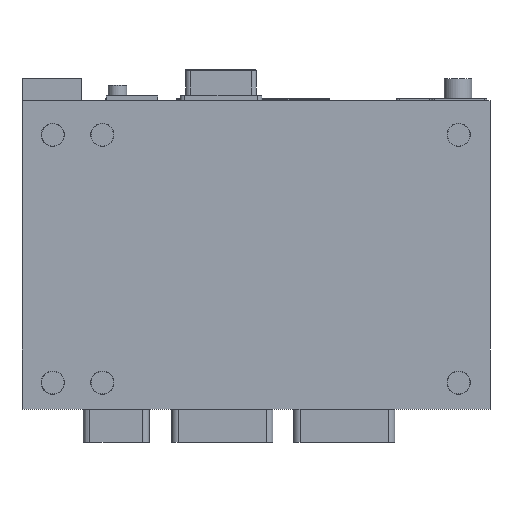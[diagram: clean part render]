
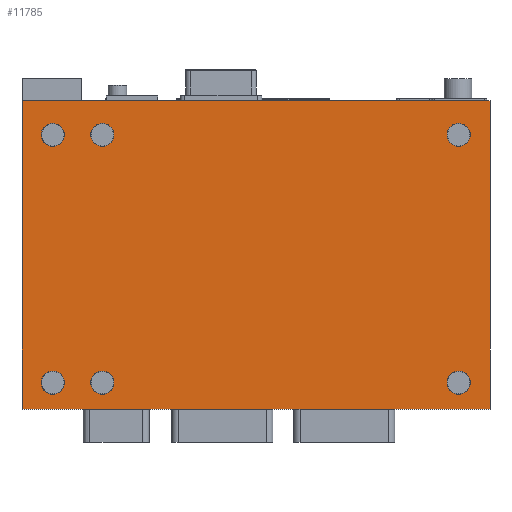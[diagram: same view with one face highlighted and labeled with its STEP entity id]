
A CAD part, front view. The second image highlights one B-rep face of the part: STEP entity #11785.
In plain terms, the highlighted planar face has unit normal (0, -1, 0).
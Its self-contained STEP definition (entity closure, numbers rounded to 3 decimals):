
#34 = AXIS2_PLACEMENT_3D ( 'NONE', #2695, #9468, #3672 ) ;
#146 = DIRECTION ( 'NONE',  ( 0., 0., 1. ) ) ;
#155 = CARTESIAN_POINT ( 'NONE',  ( 73., 5., -245.5 ) ) ;
#192 = DIRECTION ( 'NONE',  ( 0., -1., 0. ) ) ;
#233 = ORIENTED_EDGE ( 'NONE', *, *, #3648, .F. ) ;
#249 = VERTEX_POINT ( 'NONE', #8345 ) ;
#421 = CARTESIAN_POINT ( 'NONE',  ( 396.5, 5., -31. ) ) ;
#442 = VERTEX_POINT ( 'NONE', #5051 ) ;
#443 = LINE ( 'NONE', #6369, #2711 ) ;
#473 = EDGE_CURVE ( 'NONE', #9818, #442, #443, .T. ) ;
#642 = VERTEX_POINT ( 'NONE', #4894 ) ;
#671 = ORIENTED_EDGE ( 'NONE', *, *, #11718, .F. ) ;
#881 = DIRECTION ( 'NONE',  ( 0., 0., 1. ) ) ;
#892 = ORIENTED_EDGE ( 'NONE', *, *, #9554, .F. ) ;
#978 = AXIS2_PLACEMENT_3D ( 'NONE', #421, #7200, #1389 ) ;
#1041 = DIRECTION ( 'NONE',  ( 1., 0., 0. ) ) ;
#1056 = DIRECTION ( 'NONE',  ( 0., -1., 0. ) ) ;
#1070 = CARTESIAN_POINT ( 'NONE',  ( 0., 5., -280. ) ) ;
#1132 = ORIENTED_EDGE ( 'NONE', *, *, #3046, .F. ) ;
#1202 = EDGE_CURVE ( 'NONE', #7677, #7695, #9372, .T. ) ;
#1282 = CARTESIAN_POINT ( 'NONE',  ( 28., 5., -20.5 ) ) ;
#1325 = LINE ( 'NONE', #8549, #3605 ) ;
#1352 = EDGE_CURVE ( 'NONE', #7695, #7677, #1483, .T. ) ;
#1389 = DIRECTION ( 'NONE',  ( 0., 0., 1. ) ) ;
#1451 = CARTESIAN_POINT ( 'NONE',  ( 28., 5., -266.5 ) ) ;
#1457 = EDGE_LOOP ( 'NONE', ( #8455, #4611 ) ) ;
#1471 = FACE_OUTER_BOUND ( 'NONE', #5993, .T. ) ;
#1483 = CIRCLE ( 'NONE', #3769, 10.5 ) ;
#1583 = CARTESIAN_POINT ( 'NONE',  ( 73., 5., -256. ) ) ;
#1784 = AXIS2_PLACEMENT_3D ( 'NONE', #6004, #192, #6974 ) ;
#1826 = DIRECTION ( 'NONE',  ( 0., -1., 0. ) ) ;
#1918 = DIRECTION ( 'NONE',  ( 0., -1., 0. ) ) ;
#2027 = VERTEX_POINT ( 'NONE', #155 ) ;
#2198 = DIRECTION ( 'NONE',  ( 0., 0., 1. ) ) ;
#2494 = EDGE_CURVE ( 'NONE', #642, #9963, #5536, .T. ) ;
#2554 = DIRECTION ( 'NONE',  ( 0., 0., 1. ) ) ;
#2595 = EDGE_LOOP ( 'NONE', ( #4481, #8242 ) ) ;
#2695 = CARTESIAN_POINT ( 'NONE',  ( 396.5, 5., -256. ) ) ;
#2711 = VECTOR ( 'NONE', #1041, 1000. ) ;
#2981 = EDGE_LOOP ( 'NONE', ( #10759, #5641 ) ) ;
#3046 = EDGE_CURVE ( 'NONE', #442, #11202, #12003, .T. ) ;
#3229 = CARTESIAN_POINT ( 'NONE',  ( 28., 5., -256. ) ) ;
#3242 = EDGE_CURVE ( 'NONE', #2027, #3461, #12450, .T. ) ;
#3339 = CARTESIAN_POINT ( 'NONE',  ( 73., 5., -266.5 ) ) ;
#3408 = ORIENTED_EDGE ( 'NONE', *, *, #6508, .F. ) ;
#3432 = CARTESIAN_POINT ( 'NONE',  ( 73., 5., -20.5 ) ) ;
#3461 = VERTEX_POINT ( 'NONE', #3339 ) ;
#3502 = CARTESIAN_POINT ( 'NONE',  ( 396.5, 5., -245.5 ) ) ;
#3553 = VERTEX_POINT ( 'NONE', #3502 ) ;
#3605 = VECTOR ( 'NONE', #4682, 1000. ) ;
#3648 = EDGE_CURVE ( 'NONE', #3553, #12511, #7619, .T. ) ;
#3672 = DIRECTION ( 'NONE',  ( 0., 0., 1. ) ) ;
#3686 = CARTESIAN_POINT ( 'NONE',  ( 396.5, 5., -256. ) ) ;
#3769 = AXIS2_PLACEMENT_3D ( 'NONE', #9826, #1826, #11802 ) ;
#4044 = FACE_BOUND ( 'NONE', #1457, .T. ) ;
#4201 = VERTEX_POINT ( 'NONE', #10620 ) ;
#4210 = DIRECTION ( 'NONE',  ( 0., 0., 1. ) ) ;
#4428 = AXIS2_PLACEMENT_3D ( 'NONE', #6841, #1056, #7831 ) ;
#4481 = ORIENTED_EDGE ( 'NONE', *, *, #7784, .F. ) ;
#4611 = ORIENTED_EDGE ( 'NONE', *, *, #1352, .F. ) ;
#4656 = DIRECTION ( 'NONE',  ( 0., 0., 1. ) ) ;
#4682 = DIRECTION ( 'NONE',  ( -1., 0., 0. ) ) ;
#4730 = CARTESIAN_POINT ( 'NONE',  ( 0., 5., 0. ) ) ;
#4809 = EDGE_LOOP ( 'NONE', ( #7518, #892 ) ) ;
#4838 = DIRECTION ( 'NONE',  ( 0., 0., 1. ) ) ;
#4894 = CARTESIAN_POINT ( 'NONE',  ( 396.5, 5., -20.5 ) ) ;
#4963 = ORIENTED_EDGE ( 'NONE', *, *, #5828, .F. ) ;
#5051 = CARTESIAN_POINT ( 'NONE',  ( 425., 5., 0. ) ) ;
#5073 = AXIS2_PLACEMENT_3D ( 'NONE', #3686, #10436, #4656 ) ;
#5128 = CARTESIAN_POINT ( 'NONE',  ( 0., 5., -280. ) ) ;
#5221 = VERTEX_POINT ( 'NONE', #1451 ) ;
#5338 = DIRECTION ( 'NONE',  ( 0., -1., 0. ) ) ;
#5536 = CIRCLE ( 'NONE', #7106, 10.5 ) ;
#5553 = CARTESIAN_POINT ( 'NONE',  ( 425., 5., -280. ) ) ;
#5613 = EDGE_CURVE ( 'NONE', #11404, #249, #8115, .T. ) ;
#5641 = ORIENTED_EDGE ( 'NONE', *, *, #3242, .F. ) ;
#5693 = DIRECTION ( 'NONE',  ( 0., -1., 0. ) ) ;
#5795 = CARTESIAN_POINT ( 'NONE',  ( 396.5, 5., -41.5 ) ) ;
#5813 = CARTESIAN_POINT ( 'NONE',  ( 28., 5., -31. ) ) ;
#5828 = EDGE_CURVE ( 'NONE', #249, #11404, #10806, .T. ) ;
#5947 = DIRECTION ( 'NONE',  ( 0., -1., 0. ) ) ;
#5993 = EDGE_LOOP ( 'NONE', ( #3408, #10874, #1132, #8748 ) ) ;
#6004 = CARTESIAN_POINT ( 'NONE',  ( 73., 5., -31. ) ) ;
#6369 = CARTESIAN_POINT ( 'NONE',  ( 0., 5., 0. ) ) ;
#6508 = EDGE_CURVE ( 'NONE', #7570, #9818, #9439, .T. ) ;
#6518 = DIRECTION ( 'NONE',  ( 0., 0., -1. ) ) ;
#6601 = AXIS2_PLACEMENT_3D ( 'NONE', #5813, #1918, #4838 ) ;
#6618 = FACE_BOUND ( 'NONE', #10669, .T. ) ;
#6645 = PLANE ( 'NONE',  #10894 ) ;
#6681 = DIRECTION ( 'NONE',  ( 0., 1., 0. ) ) ;
#6841 = CARTESIAN_POINT ( 'NONE',  ( 73., 5., -256. ) ) ;
#6917 = FACE_BOUND ( 'NONE', #2981, .T. ) ;
#6974 = DIRECTION ( 'NONE',  ( 0., 0., 1. ) ) ;
#7044 = AXIS2_PLACEMENT_3D ( 'NONE', #11105, #5338, #12077 ) ;
#7106 = AXIS2_PLACEMENT_3D ( 'NONE', #11461, #5693, #12424 ) ;
#7200 = DIRECTION ( 'NONE',  ( 0., -1., 0. ) ) ;
#7518 = ORIENTED_EDGE ( 'NONE', *, *, #11156, .F. ) ;
#7562 = CARTESIAN_POINT ( 'NONE',  ( 0., 5., 0. ) ) ;
#7570 = VERTEX_POINT ( 'NONE', #1070 ) ;
#7619 = CIRCLE ( 'NONE', #34, 10.5 ) ;
#7677 = VERTEX_POINT ( 'NONE', #9907 ) ;
#7695 = VERTEX_POINT ( 'NONE', #1282 ) ;
#7784 = EDGE_CURVE ( 'NONE', #9963, #642, #9118, .T. ) ;
#7831 = DIRECTION ( 'NONE',  ( 0., 0., 1. ) ) ;
#8115 = CIRCLE ( 'NONE', #1784, 10.5 ) ;
#8146 = CIRCLE ( 'NONE', #11501, 10.5 ) ;
#8242 = ORIENTED_EDGE ( 'NONE', *, *, #2494, .F. ) ;
#8345 = CARTESIAN_POINT ( 'NONE',  ( 73., 5., -41.5 ) ) ;
#8360 = DIRECTION ( 'NONE',  ( 0., -1., 0. ) ) ;
#8455 = ORIENTED_EDGE ( 'NONE', *, *, #1202, .F. ) ;
#8511 = EDGE_CURVE ( 'NONE', #3461, #2027, #8146, .T. ) ;
#8549 = CARTESIAN_POINT ( 'NONE',  ( 0., 5., -280. ) ) ;
#8748 = ORIENTED_EDGE ( 'NONE', *, *, #473, .F. ) ;
#8935 = CARTESIAN_POINT ( 'NONE',  ( 425., 5., -280. ) ) ;
#8959 = CARTESIAN_POINT ( 'NONE',  ( 396.5, 5., -266.5 ) ) ;
#8984 = CIRCLE ( 'NONE', #9075, 10.5 ) ;
#9044 = AXIS2_PLACEMENT_3D ( 'NONE', #3229, #9992, #4210 ) ;
#9075 = AXIS2_PLACEMENT_3D ( 'NONE', #11741, #5947, #146 ) ;
#9118 = CIRCLE ( 'NONE', #978, 10.5 ) ;
#9207 = FACE_BOUND ( 'NONE', #2595, .T. ) ;
#9236 = ORIENTED_EDGE ( 'NONE', *, *, #5613, .F. ) ;
#9372 = CIRCLE ( 'NONE', #6601, 10.5 ) ;
#9439 = LINE ( 'NONE', #5128, #11986 ) ;
#9468 = DIRECTION ( 'NONE',  ( 0., -1., 0. ) ) ;
#9503 = FACE_BOUND ( 'NONE', #9865, .T. ) ;
#9554 = EDGE_CURVE ( 'NONE', #4201, #5221, #12163, .T. ) ;
#9789 = CIRCLE ( 'NONE', #5073, 10.5 ) ;
#9818 = VERTEX_POINT ( 'NONE', #7562 ) ;
#9826 = CARTESIAN_POINT ( 'NONE',  ( 28., 5., -31. ) ) ;
#9865 = EDGE_LOOP ( 'NONE', ( #671, #233 ) ) ;
#9907 = CARTESIAN_POINT ( 'NONE',  ( 28., 5., -41.5 ) ) ;
#9963 = VERTEX_POINT ( 'NONE', #5795 ) ;
#9992 = DIRECTION ( 'NONE',  ( 0., -1., 0. ) ) ;
#10436 = DIRECTION ( 'NONE',  ( 0., -1., 0. ) ) ;
#10620 = CARTESIAN_POINT ( 'NONE',  ( 28., 5., -245.5 ) ) ;
#10669 = EDGE_LOOP ( 'NONE', ( #4963, #9236 ) ) ;
#10759 = ORIENTED_EDGE ( 'NONE', *, *, #8511, .F. ) ;
#10806 = CIRCLE ( 'NONE', #7044, 10.5 ) ;
#10874 = ORIENTED_EDGE ( 'NONE', *, *, #11577, .F. ) ;
#10894 = AXIS2_PLACEMENT_3D ( 'NONE', #4730, #6681, #881 ) ;
#11105 = CARTESIAN_POINT ( 'NONE',  ( 73., 5., -31. ) ) ;
#11156 = EDGE_CURVE ( 'NONE', #5221, #4201, #8984, .T. ) ;
#11202 = VERTEX_POINT ( 'NONE', #8935 ) ;
#11404 = VERTEX_POINT ( 'NONE', #3432 ) ;
#11461 = CARTESIAN_POINT ( 'NONE',  ( 396.5, 5., -31. ) ) ;
#11501 = AXIS2_PLACEMENT_3D ( 'NONE', #1583, #8360, #2554 ) ;
#11577 = EDGE_CURVE ( 'NONE', #11202, #7570, #1325, .T. ) ;
#11694 = VECTOR ( 'NONE', #6518, 1000. ) ;
#11718 = EDGE_CURVE ( 'NONE', #12511, #3553, #9789, .T. ) ;
#11740 = FACE_BOUND ( 'NONE', #4809, .T. ) ;
#11741 = CARTESIAN_POINT ( 'NONE',  ( 28., 5., -256. ) ) ;
#11785 = ADVANCED_FACE ( 'NONE', ( #9503, #9207, #11740, #6917, #6618, #4044, #1471 ), #6645, .F. ) ;
#11802 = DIRECTION ( 'NONE',  ( 0., 0., 1. ) ) ;
#11986 = VECTOR ( 'NONE', #2198, 1000. ) ;
#12003 = LINE ( 'NONE', #5553, #11694 ) ;
#12077 = DIRECTION ( 'NONE',  ( 0., 0., 1. ) ) ;
#12163 = CIRCLE ( 'NONE', #9044, 10.5 ) ;
#12424 = DIRECTION ( 'NONE',  ( 0., 0., 1. ) ) ;
#12450 = CIRCLE ( 'NONE', #4428, 10.5 ) ;
#12511 = VERTEX_POINT ( 'NONE', #8959 ) ;
